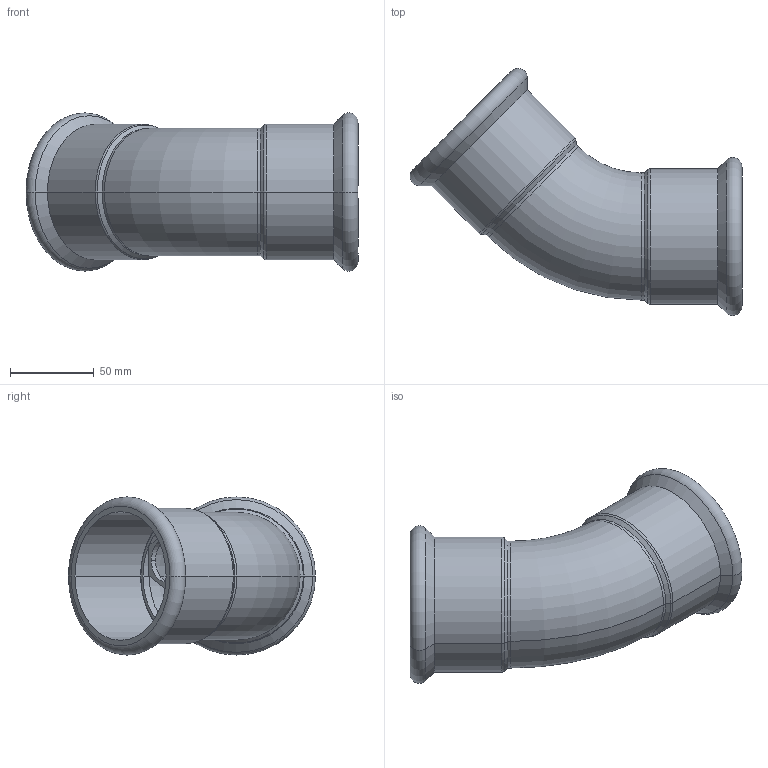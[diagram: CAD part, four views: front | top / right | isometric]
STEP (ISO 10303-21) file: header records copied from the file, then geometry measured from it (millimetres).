
FILE_DESCRIPTION(('OneSpaceDesigner STEP Export'),'2;1');
FILE_NAME('R2712 76x76.stp','2010-06-09T15:47:41',(''),(''),'OneSpace Designer STEP processor for AP214 (Solid Model)','OneSpace Modeling 15.00A 14-Mar-2007 (C) CoCreate Software GmbH','');
FILE_SCHEMA(('AUTOMOTIVE_DESIGN { 1 0 10303 214 1 1 1 1 }'));
Length unit declared in the file: millimetre
Products named in the file (2): R2712_76x76
Assembly tree (1 placements, depth 2):
  R2712_76x76
    R2712_76x76
Bounding box: 198.42 x 147.66 x 94.48 mm (x, y, z)
Volume: 136900.1 mm3; surface area: 107745.8 mm2
Topology: 1 solids, 1 shells, 118 faces, 292 edges, 186 vertices
Faces by surface type: plane 60, cylinder 38, torus 12, cone 8
Entity records: 3085 total; most frequent: ORIENTED_EDGE 584, CARTESIAN_POINT 500, DIRECTION 450, EDGE_CURVE 292, VERTEX_POINT 186, VECTOR 178, LINE 178, EDGE_LOOP 142
